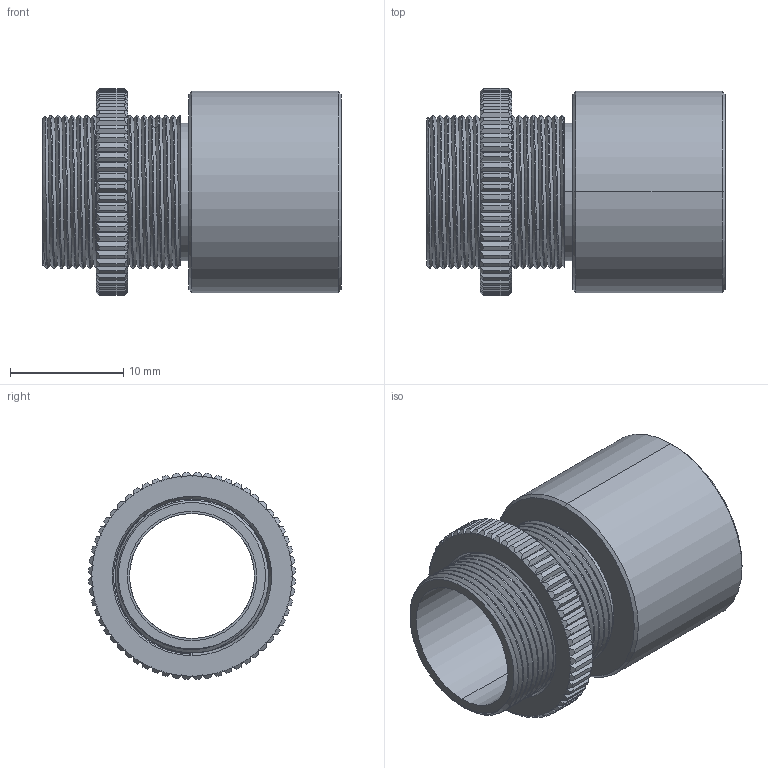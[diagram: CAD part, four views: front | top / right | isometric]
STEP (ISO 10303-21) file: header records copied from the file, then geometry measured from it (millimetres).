
FILE_DESCRIPTION((''),'2;1');
FILE_NAME('SM05V05_ASM','2023-02-24T',('daizh'),(''),'CREO PARAMETRIC BY PTC INC, 2018360','CREO PARAMETRIC BY PTC INC, 2018360','');
FILE_SCHEMA(('CONFIG_CONTROL_DESIGN'));
Length unit declared in the file: millimetre
Products named in the file (4): SM05V05_A1; SM05V10_A2; CSK05; SM05V05_ASM
Assembly tree (3 placements, depth 2):
  SM05V05_ASM
    SM05V05_A1
    SM05V10_A2
    CSK05
Bounding box: 26.36 x 18.29 x 18.29 mm (x, y, z)
Volume: 2164.6 mm3; surface area: 3974.7 mm2
Topology: 3 solids, 3 shells, 480 faces, 1387 edges, 916 vertices
Faces by surface type: cylinder 155, plane 145, cone 135, bspline 45
Entity records: 28544 total; most frequent: CARTESIAN_POINT 16654, ORIENTED_EDGE 2774, DIRECTION 2064, EDGE_CURVE 1387, VERTEX_POINT 916, AXIS2_PLACEMENT_3D 736, VECTOR 592, LINE 592
